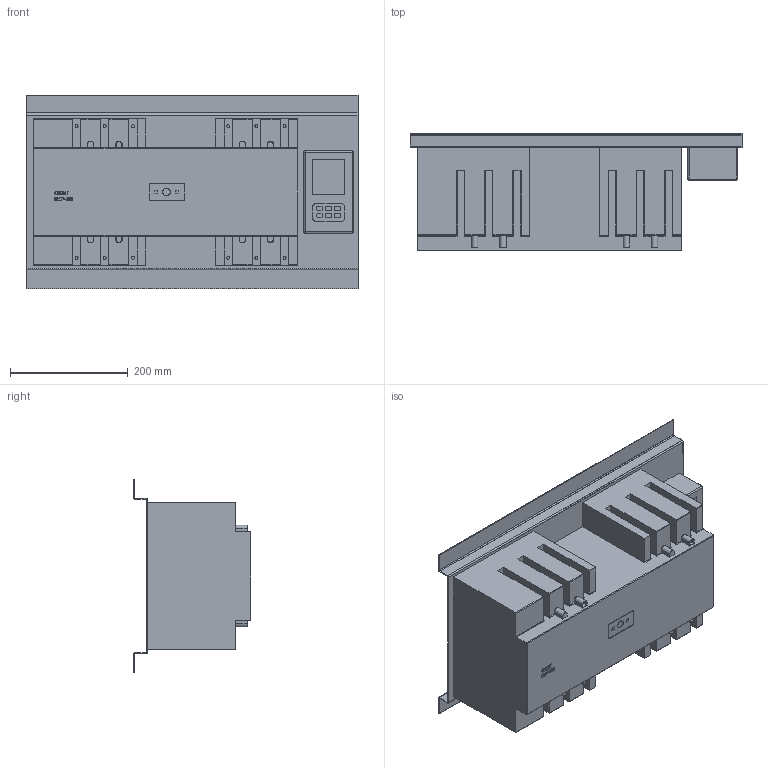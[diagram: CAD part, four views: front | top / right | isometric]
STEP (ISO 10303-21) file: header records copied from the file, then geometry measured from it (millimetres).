
FILE_DESCRIPTION(/* description */ ('','CAx-IF Rec.Pracs.---Representation and Presentation of Product Manufacturing Information (PMI)---3.8---2014-02-18'),/* implementation_level */ '2;1');
FILE_NAME(/* name */ 'C:\Users\ILYA\Desktop\NZ7\NZ7-400(3P)\NZ7-400(3P).stp',/* time_stamp */ '2017-08-16T21:45:21+03:00',/* author */ ('ILYA'),/* organization */ (''),/* preprocessor_version */ 'ST-DEVELOPER v16.1',/* originating_system */ 'Autodesk Inventor 2016',/* authorisation */ '');
FILE_SCHEMA (('AP242_MANAGED_MODEL_BASED_3D_ENGINEERING_MIM_LF { 1 0 10303 442 1 1 4 }'));
Length unit declared in the file: millimetre
Products named in the file (1): NZ7-400(3P)
Bounding box: 565 x 200 x 330 mm (x, y, z)
Volume: 16916134.4 mm3; surface area: 857437.7 mm2
Topology: 1 solids, 1 shells, 482 faces, 1257 edges, 822 vertices
Faces by surface type: plane 302, cylinder 136, bspline 40, sphere 4
Full cylindrical faces by diameter (mm): 5 x12, 13 x1
Entity records: 15044 total; most frequent: CARTESIAN_POINT 3192, ORIENTED_EDGE 2488, DIRECTION 2294, EDGE_CURVE 1244, LINE 920, VECTOR 920, VERTEX_POINT 822, AXIS2_PLACEMENT_3D 687
